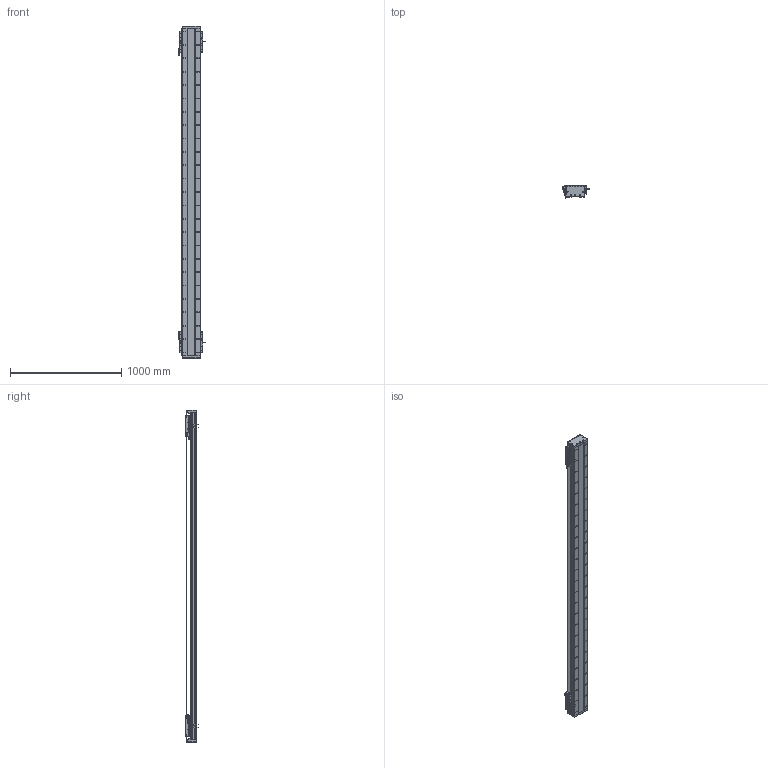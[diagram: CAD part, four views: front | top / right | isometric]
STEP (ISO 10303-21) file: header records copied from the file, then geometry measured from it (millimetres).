
FILE_DESCRIPTION (( 'STEP AP203' ), '1' );
FILE_NAME ('DA-C165-2-C2-T2480-C010-0.2 直线电机.STEP', '2023-05-11T08:29:30', ( '微软用户' ), ( '微软中国' ), 'SwSTEP 2.0', 'SolidWorks 2019', '' );
FILE_SCHEMA (( 'CONFIG_CONTROL_DESIGN' ));
Length unit declared in the file: millimetre
Products named in the file (22): 复件 六角薄螺母 M3^DA-C165-C2-T-C010-0.2-N 直线电机_GB_FASTENER_NUT_STNAB M3-C; 复件 XD-U-02L 磁栅尺^DA-C165-C2-T-C010-0.2-N 直线电机_T; 葩璃 CKM01-W075-TRL^DA-C165-C2-T-C010-0.2-N 眻盄萇儂; 复件 DA126-GYP-ZJ-00 中间光电感应片^DA-C165-C2-T-C010-0.2-N 直线电机; 复件 DA165-GDLK-00 钢带拉块^复件 CU165钢带组件_DA-C165-C2-T-C010-0.2-N 直线电机; 复件 DA165-GYP-00 光电感应片^DA-C165-C2-T-C010-0.2-N 直线电机; 珨极趙賑雄怢啣wf-C2; 复件 CU165钢带组件^DA-C165-C2-T-C010-0.2-N 直线电机; 复件 DA165-GDYK-00 钢带压块^复件 CU165钢带组件_DA-C165-C2-T-C010-0.2-N 直线电机; IU-CU165-L-00 菁釱_L2940; IU-CU165-L 菁釱絳寢; 复件 DMA-010-0.2 读数头^DA-C165-C2-T-C010-0.2-N 直线电机; 复件 DA165-GD-DG-H-00 端盖^复件 CU165钢带组件_DA-C165-C2-T-C010-0.2-N 直线电机; 复件 DA95-HXJ-00 缓冲橡胶^DA-C165-C2-T-C010-0.2-N 直线电机; 葩璃 PM-T45^DA-C165-C2-T-C010-0.2-N 眻盄萇儂; 复件 DKW-HXJ-JY-00 缓冲橡胶^DA-C165-C2-T-C010-0.2-N 直线电机; 复件 DA165-GD-1860-002-00 钢带盖板^复件 CU165钢带组件_DA-C165-C2-T-C010-0.2-N 直线电机; 复件 CKM02-W075-C1C2-TP-3.0 一体电机-C2^DA-C165-C2-T-C010-0.2-N 直线电机; 葩璃 DA95-GT-T-00^IU-CU165-L 菁釱絳寢_T; 复件 66338-1000-006-00 光电感应块^DA-C165-C2-T-C010-0.2-N 直线电机; 葩璃 PM-Y45^DA-C165-C2-T-C010-0.2-N 眻盄萇儂; DA-C165-2-C2-T2480-C010-0.2 眻盄萇儂
Assembly tree (43 placements, depth 3):
  DA-C165-2-C2-T2480-C010-0.2 眻盄萇儂
    IU-CU165-L 菁釱絳寢
      IU-CU165-L-00 菁釱_L2940
      葩璃 DA95-GT-T-00^IU-CU165-L 菁釱絳寢_T  x4
    复件 XD-U-02L 磁栅尺^DA-C165-C2-T-C010-0.2-N 直线电机_T
    葩璃 PM-T45^DA-C165-C2-T-C010-0.2-N 眻盄萇儂  x4
    葩璃 CKM01-W075-TRL^DA-C165-C2-T-C010-0.2-N 眻盄萇儂
    复件 CU165钢带组件^DA-C165-C2-T-C010-0.2-N 直线电机
      复件 DA165-GD-DG-H-00 端盖^复件 CU165钢带组件_DA-C165-C2-T-C010-0.2-N 直线电机  x2
      复件 DA165-GDYK-00 钢带压块^复件 CU165钢带组件_DA-C165-C2-T-C010-0.2-N 直线电机  x2
      复件 DA165-GD-1860-002-00 钢带盖板^复件 CU165钢带组件_DA-C165-C2-T-C010-0.2-N 直线电机
      复件 DA165-GDLK-00 钢带拉块^复件 CU165钢带组件_DA-C165-C2-T-C010-0.2-N 直线电机  x2
    复件 DA95-HXJ-00 缓冲橡胶^DA-C165-C2-T-C010-0.2-N 直线电机  x4
    复件 CKM02-W075-C1C2-TP-3.0 一体电机-C2^DA-C165-C2-T-C010-0.2-N 直线电机  x2
    复件 DMA-010-0.2 读数头^DA-C165-C2-T-C010-0.2-N 直线电机  x2
    复件 DA165-GYP-00 光电感应片^DA-C165-C2-T-C010-0.2-N 直线电机  x2
    复件 66338-1000-006-00 光电感应块^DA-C165-C2-T-C010-0.2-N 直线电机
    葩璃 PM-Y45^DA-C165-C2-T-C010-0.2-N 眻盄萇儂
    复件 DA126-GYP-ZJ-00 中间光电感应片^DA-C165-C2-T-C010-0.2-N 直线电机
    复件 DKW-HXJ-JY-00 缓冲橡胶^DA-C165-C2-T-C010-0.2-N 直线电机  x2
    复件 六角薄螺母 M3^DA-C165-C2-T-C010-0.2-N 直线电机_GB_FASTENER_NUT_STNAB M3-C  x6
    珨极趙賑雄怢啣wf-C2  x2
Bounding box: 247.2 x 111.45 x 2980 mm (x, y, z)
Volume: 17875887 mm3; surface area: 5238362.2 mm2
Topology: 119 solids, 119 shells, 5839 faces, 16592 edges, 10502 vertices
Faces by surface type: cylinder 3228, plane 1819, cone 704, torus 80, sphere 8
Entity records: 145582 total; most frequent: CARTESIAN_POINT 39807, ORIENTED_EDGE 22128, DIRECTION 21088, EDGE_CURVE 11064, AXIS2_PLACEMENT_3D 8026, VERTEX_POINT 7239, LINE 5036, VECTOR 5036
